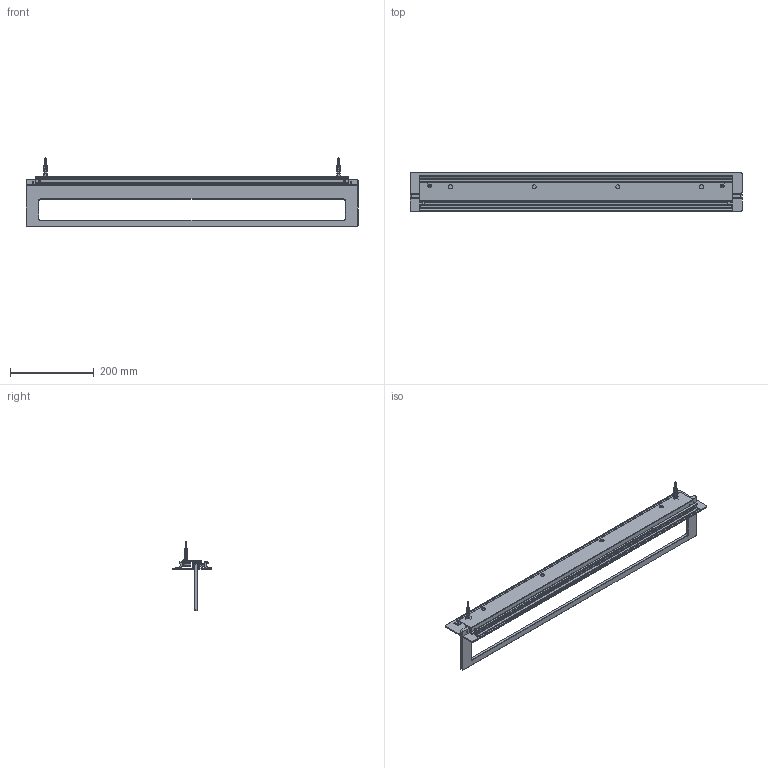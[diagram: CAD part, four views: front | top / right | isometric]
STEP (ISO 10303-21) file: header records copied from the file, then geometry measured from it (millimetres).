
FILE_DESCRIPTION (( 'STEP AP203' ), '1' );
FILE_NAME ('Z-7090-5-800.STEP', '2025-10-14T09:23:20', ( '' ), ( '' ), 'SwSTEP 2.0', 'SolidWorks 2025', '' );
FILE_SCHEMA (( 'CONFIG_CONTROL_DESIGN' ));
Length unit declared in the file: millimetre
Products named in the file (10): DIN 913_M5x12; Z-7090-003; Z-7090-007-Lc_793; Uszczelka typu U_750mm; Z-7090-001-Lc_793; Z-7090-002-Lc_750; Z-7090-5-800; DIN 913_M4x5; Kołek rozporowy_Fischer DuoPower 6x30; wkret_z_lbem_stozkowym_ph_Ø4,5x60  DIN 7997
Assembly tree (14 placements, depth 2):
  Z-7090-5-800
    Z-7090-002-Lc_750
    Z-7090-001-Lc_793
    Z-7090-003  x2
    wkret_z_lbem_stozkowym_ph_Ø4,5x60  DIN 7997  x2
    DIN 913_M4x5  x2
    Kołek rozporowy_Fischer DuoPower 6x30  x2
    Uszczelka typu U_750mm
    Z-7090-007-Lc_793
    DIN 913_M5x12  x2
Bounding box: 793 x 95 x 165.04 mm (x, y, z)
Volume: 990619.3 mm3; surface area: 571197.6 mm2
Topology: 14 solids, 14 shells, 865 faces, 2393 edges, 1578 vertices
Faces by surface type: cylinder 564, plane 221, cone 52, bspline 20, sphere 8
Entity records: 29416 total; most frequent: CARTESIAN_POINT 15248, ORIENTED_EDGE 3022, DIRECTION 2399, EDGE_CURVE 1511, VERTEX_POINT 995, AXIS2_PLACEMENT_3D 824, VECTOR 751, LINE 751
